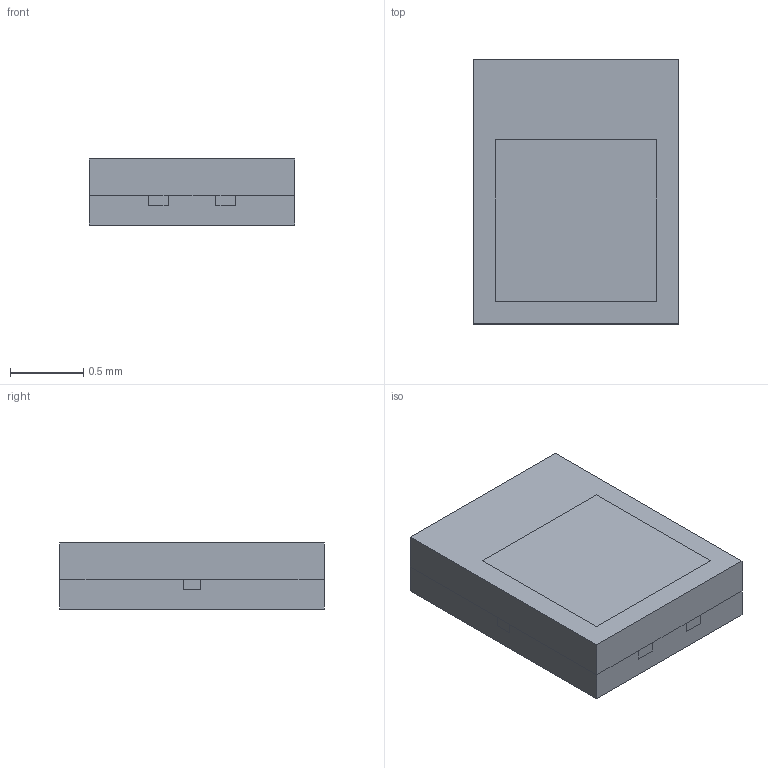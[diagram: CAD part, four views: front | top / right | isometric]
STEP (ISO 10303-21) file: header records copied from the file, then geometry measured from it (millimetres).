
FILE_DESCRIPTION(('CATIA V5 STEP Exchange'),'2;1');
FILE_NAME('D:\Multimedia\Fx Gen2_3W_1814_White.stp','2019-06-03T05:28:58+00:00',('none'),('none'),'CATIA Version 5 Release 20 GA (IN-10)','CATIA V5 STEP AP203','none');
FILE_SCHEMA(('CONFIG_CONTROL_DESIGN'));
Length unit declared in the file: millimetre
Products named in the file (1): FX Gen2_3W_1814_White
Bounding box: 1.4 x 1.8 x 0.45 mm (x, y, z)
Volume: 1.1 mm3; surface area: 7.9 mm2
Topology: 1 solids, 1 shells, 19 faces, 74 edges, 60 vertices
Faces by surface type: plane 19
Entity records: 850 total; most frequent: CARTESIAN_POINT 155, ORIENTED_EDGE 148, DIRECTION 114, EDGE_CURVE 74, VECTOR 65, LINE 65, VERTEX_POINT 60, AXIS2_PLACEMENT_3D 30
